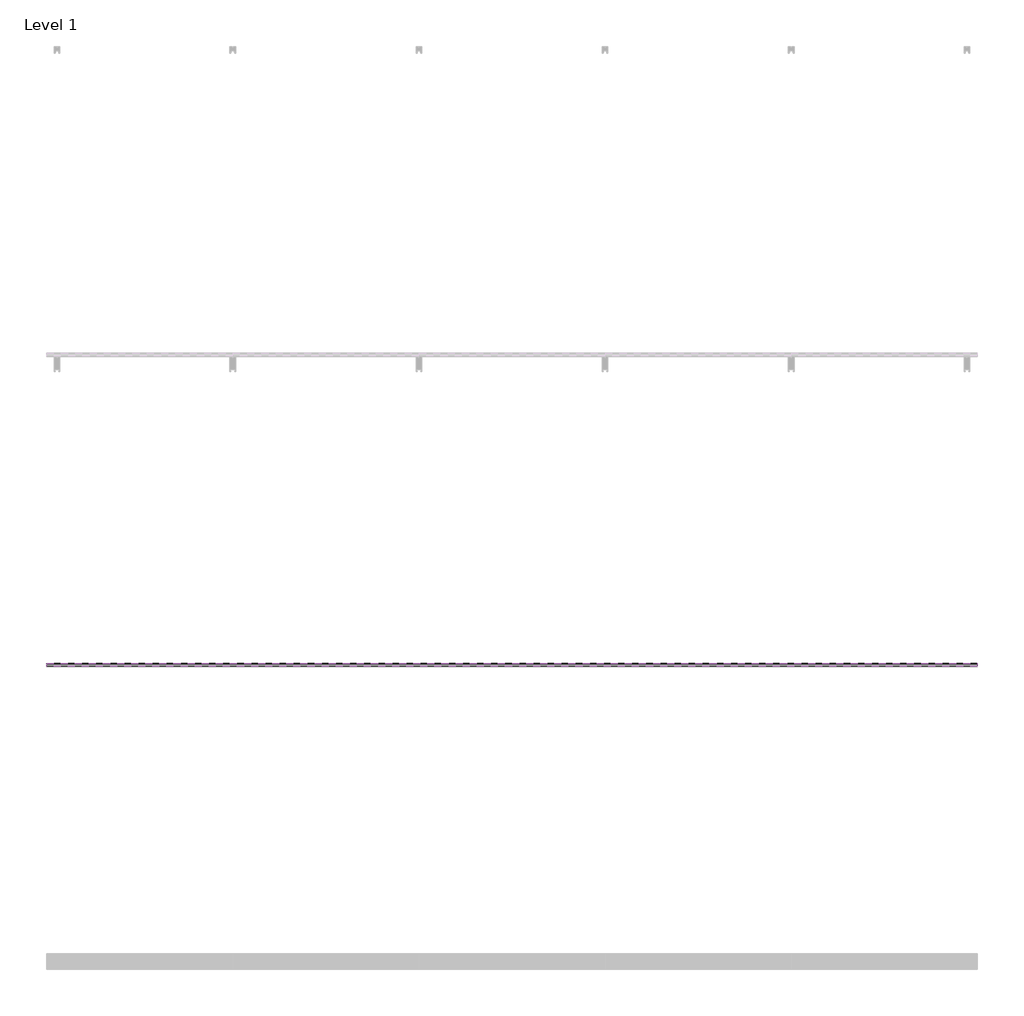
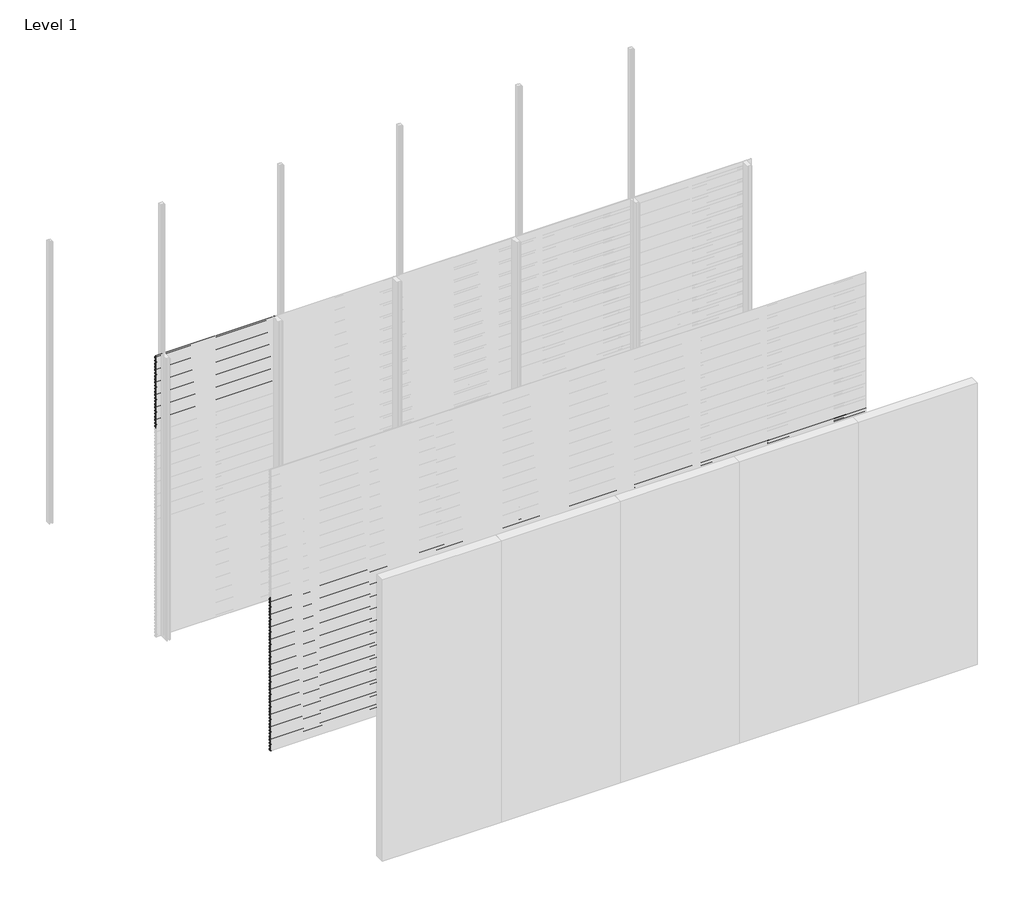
# One storey, part 49 of 77: 72 proxies.
"""IFC4 building model written with IfcOpenShell, lengths in millimetres."""

from ifc_helpers import new_model, si_unit, frame, origin, place, context, project, spatial, polyline, outline, extrude, element, save

model = new_model("IFC4")

# Units and contexts
model_context = context("Model", 3, world=origin())
ifc_project = project(units=[si_unit("LENGTHUNIT", "METRE", prefix="MILLI")], contexts=[model_context])

# Site, building, storey
site = spatial("IfcSite", under=ifc_project)
building = spatial("IfcBuilding", under=site)
storey = spatial("IfcBuildingStorey", under=building, Name="Level 1", Elevation=0.0)

# Proxies
placement = place(None, origin())
element("IfcBuildingElementProxy", 1, Name="Wall Sweeps", at=placement, inside=storey, context=model_context, shape_type="SweptSolid", body=[
    extrude(outline(polyline([(-17978.6, 2972.5359887), (-17998.0, 2983.7366691), (-17998.0, 2997.0), (-17997.0, 2997.0), (-17997.0, 2984.3191057), (-17977.6, 2973.1185105), (-17977.6, 2959.5185105), (-17978.6, 2961.0953129), (-17978.6, 2966.9032062), (-17995.9773817, 2958.8), (-17996.4, 2959.7063078), (-17978.6, 2968.0065841), (-17978.6, 2972.5359887)])), frame((0.0, 0.0, 0.0), z_axis=(1.0, 0.0, 0.0), x_axis=(0.0, 1.0, 0.0)), (0.0, 0.0, 1.0), 1200.0),
])
element("IfcBuildingElementProxy", 2, Name="Wall Sweeps", at=placement, inside=storey, context=model_context, shape_type="SweptSolid", body=[
    extrude(outline(polyline([(-17978.6, 2939.2359887), (-17998.0, 2950.4366691), (-17998.0, 2963.7), (-17997.0, 2963.7), (-17997.0, 2951.0191057), (-17977.6, 2939.8185105), (-17977.6, 2926.2185105), (-17978.6, 2927.7953129), (-17978.6, 2933.6032062), (-17995.9773817, 2925.5), (-17996.4, 2926.4063078), (-17978.6, 2934.7065841), (-17978.6, 2939.2359887)])), frame((0.0, 0.0, 0.0), z_axis=(1.0, 0.0, 0.0), x_axis=(0.0, 1.0, 0.0)), (0.0, 0.0, 1.0), 1200.0),
])
element("IfcBuildingElementProxy", 3, Name="Wall Sweeps", at=placement, inside=storey, context=model_context, shape_type="SweptSolid", body=[
    extrude(outline(polyline([(-17978.6, 2905.9359887), (-17998.0, 2917.1366691), (-17998.0, 2930.4), (-17997.0, 2930.4), (-17997.0, 2917.7191057), (-17977.6, 2906.5185105), (-17977.6, 2892.9185105), (-17978.6, 2894.4953129), (-17978.6, 2900.3032062), (-17995.9773817, 2892.2), (-17996.4, 2893.1063078), (-17978.6, 2901.4065841), (-17978.6, 2905.9359887)])), frame((0.0, 0.0, 0.0), z_axis=(1.0, 0.0, 0.0), x_axis=(0.0, 1.0, 0.0)), (0.0, 0.0, 1.0), 1200.0),
])
element("IfcBuildingElementProxy", 4, Name="Wall Sweeps", at=placement, inside=storey, context=model_context, shape_type="SweptSolid", body=[
    extrude(outline(polyline([(-17978.6, 2872.6359887), (-17998.0, 2883.8366691), (-17998.0, 2897.1), (-17997.0, 2897.1), (-17997.0, 2884.4191057), (-17977.6, 2873.2185105), (-17977.6, 2859.6185105), (-17978.6, 2861.1953129), (-17978.6, 2867.0032062), (-17995.9773817, 2858.9), (-17996.4, 2859.8063078), (-17978.6, 2868.1065841), (-17978.6, 2872.6359887)])), frame((0.0, 0.0, 0.0), z_axis=(1.0, 0.0, 0.0), x_axis=(0.0, 1.0, 0.0)), (0.0, 0.0, 1.0), 1200.0),
])
element("IfcBuildingElementProxy", 5, Name="Wall Sweeps", at=placement, inside=storey, context=model_context, shape_type="SweptSolid", body=[
    extrude(outline(polyline([(-17978.6, 2839.3359887), (-17998.0, 2850.5366691), (-17998.0, 2863.8), (-17997.0, 2863.8), (-17997.0, 2851.1191057), (-17977.6, 2839.9185105), (-17977.6, 2826.3185105), (-17978.6, 2827.8953129), (-17978.6, 2833.7032062), (-17995.9773817, 2825.6), (-17996.4, 2826.5063078), (-17978.6, 2834.8065841), (-17978.6, 2839.3359887)])), frame((0.0, 0.0, 0.0), z_axis=(1.0, 0.0, 0.0), x_axis=(0.0, 1.0, 0.0)), (0.0, 0.0, 1.0), 1200.0),
])
element("IfcBuildingElementProxy", 6, Name="Wall Sweeps", at=placement, inside=storey, context=model_context, shape_type="SweptSolid", body=[
    extrude(outline(polyline([(-17978.6, 2806.0359887), (-17998.0, 2817.2366691), (-17998.0, 2830.5), (-17997.0, 2830.5), (-17997.0, 2817.8191057), (-17977.6, 2806.6185105), (-17977.6, 2793.0185105), (-17978.6, 2794.5953129), (-17978.6, 2800.4032062), (-17995.9773817, 2792.3), (-17996.4, 2793.2063078), (-17978.6, 2801.5065841), (-17978.6, 2806.0359887)])), frame((0.0, 0.0, 0.0), z_axis=(1.0, 0.0, 0.0), x_axis=(0.0, 1.0, 0.0)), (0.0, 0.0, 1.0), 1200.0),
])
element("IfcBuildingElementProxy", 7, Name="Wall Sweeps", at=placement, inside=storey, context=model_context, shape_type="SweptSolid", body=[
    extrude(outline(polyline([(-17978.6, 2772.7359887), (-17998.0, 2783.9366691), (-17998.0, 2797.2), (-17997.0, 2797.2), (-17997.0, 2784.5191057), (-17977.6, 2773.3185105), (-17977.6, 2759.7185105), (-17978.6, 2761.2953129), (-17978.6, 2767.1032062), (-17995.9773817, 2759.0), (-17996.4, 2759.9063078), (-17978.6, 2768.2065841), (-17978.6, 2772.7359887)])), frame((0.0, 0.0, 0.0), z_axis=(1.0, 0.0, 0.0), x_axis=(0.0, 1.0, 0.0)), (0.0, 0.0, 1.0), 1200.0),
])
element("IfcBuildingElementProxy", 8, Name="Wall Sweeps", at=placement, inside=storey, context=model_context, shape_type="SweptSolid", body=[
    extrude(outline(polyline([(-17978.6, 2739.4359887), (-17998.0, 2750.6366691), (-17998.0, 2763.9), (-17997.0, 2763.9), (-17997.0, 2751.2191057), (-17977.6, 2740.0185105), (-17977.6, 2726.4185105), (-17978.6, 2727.9953129), (-17978.6, 2733.8032062), (-17995.9773817, 2725.7), (-17996.4, 2726.6063078), (-17978.6, 2734.9065841), (-17978.6, 2739.4359887)])), frame((0.0, 0.0, 0.0), z_axis=(1.0, 0.0, 0.0), x_axis=(0.0, 1.0, 0.0)), (0.0, 0.0, 1.0), 1200.0),
])
element("IfcBuildingElementProxy", 9, Name="Wall Sweeps", at=placement, inside=storey, context=model_context, shape_type="SweptSolid", body=[
    extrude(outline(polyline([(-17978.6, 2706.1359887), (-17998.0, 2717.3366691), (-17998.0, 2730.6), (-17997.0, 2730.6), (-17997.0, 2717.9191057), (-17977.6, 2706.7185105), (-17977.6, 2693.1185105), (-17978.6, 2694.6953129), (-17978.6, 2700.5032062), (-17995.9773817, 2692.4), (-17996.4, 2693.3063078), (-17978.6, 2701.6065841), (-17978.6, 2706.1359887)])), frame((0.0, 0.0, 0.0), z_axis=(1.0, 0.0, 0.0), x_axis=(0.0, 1.0, 0.0)), (0.0, 0.0, 1.0), 1200.0),
])
element("IfcBuildingElementProxy", 10, Name="Wall Sweeps", at=placement, inside=storey, context=model_context, shape_type="SweptSolid", body=[
    extrude(outline(polyline([(-17978.6, 2672.8359887), (-17998.0, 2684.0366691), (-17998.0, 2697.3), (-17997.0, 2697.3), (-17997.0, 2684.6191057), (-17977.6, 2673.4185105), (-17977.6, 2659.8185105), (-17978.6, 2661.3953129), (-17978.6, 2667.2032062), (-17995.9773817, 2659.1), (-17996.4, 2660.0063078), (-17978.6, 2668.3065841), (-17978.6, 2672.8359887)])), frame((0.0, 0.0, 0.0), z_axis=(1.0, 0.0, 0.0), x_axis=(0.0, 1.0, 0.0)), (0.0, 0.0, 1.0), 1200.0),
])
element("IfcBuildingElementProxy", 11, Name="Wall Sweeps", at=placement, inside=storey, context=model_context, shape_type="SweptSolid", body=[
    extrude(outline(polyline([(-17978.6, 2639.5359887), (-17998.0, 2650.7366691), (-17998.0, 2664.0), (-17997.0, 2664.0), (-17997.0, 2651.3191057), (-17977.6, 2640.1185105), (-17977.6, 2626.5185105), (-17978.6, 2628.0953129), (-17978.6, 2633.9032062), (-17995.9773817, 2625.8), (-17996.4, 2626.7063078), (-17978.6, 2635.0065841), (-17978.6, 2639.5359887)])), frame((0.0, 0.0, 0.0), z_axis=(1.0, 0.0, 0.0), x_axis=(0.0, 1.0, 0.0)), (0.0, 0.0, 1.0), 1200.0),
])
element("IfcBuildingElementProxy", 12, Name="Wall Sweeps", at=placement, inside=storey, context=model_context, shape_type="SweptSolid", body=[
    extrude(outline(polyline([(-17978.6, 2606.2359887), (-17998.0, 2617.4366691), (-17998.0, 2630.7), (-17997.0, 2630.7), (-17997.0, 2618.0191057), (-17977.6, 2606.8185105), (-17977.6, 2593.2185105), (-17978.6, 2594.7953129), (-17978.6, 2600.6032062), (-17995.9773817, 2592.5), (-17996.4, 2593.4063078), (-17978.6, 2601.7065841), (-17978.6, 2606.2359887)])), frame((0.0, 0.0, 0.0), z_axis=(1.0, 0.0, 0.0), x_axis=(0.0, 1.0, 0.0)), (0.0, 0.0, 1.0), 1200.0),
])
element("IfcBuildingElementProxy", 13, Name="Wall Sweeps", at=placement, inside=storey, context=model_context, shape_type="SweptSolid", body=[
    extrude(outline(polyline([(-17978.6, 2572.9359887), (-17998.0, 2584.1366691), (-17998.0, 2597.4), (-17997.0, 2597.4), (-17997.0, 2584.7191057), (-17977.6, 2573.5185105), (-17977.6, 2559.9185105), (-17978.6, 2561.4953129), (-17978.6, 2567.3032062), (-17995.9773817, 2559.2), (-17996.4, 2560.1063078), (-17978.6, 2568.4065841), (-17978.6, 2572.9359887)])), frame((0.0, 0.0, 0.0), z_axis=(1.0, 0.0, 0.0), x_axis=(0.0, 1.0, 0.0)), (0.0, 0.0, 1.0), 1200.0),
])
element("IfcBuildingElementProxy", 14, Name="Wall Sweeps", at=placement, inside=storey, context=model_context, shape_type="SweptSolid", body=[
    extrude(outline(polyline([(-17978.6, 2539.6359887), (-17998.0, 2550.8366691), (-17998.0, 2564.1), (-17997.0, 2564.1), (-17997.0, 2551.4191057), (-17977.6, 2540.2185105), (-17977.6, 2526.6185105), (-17978.6, 2528.1953129), (-17978.6, 2534.0032062), (-17995.9773817, 2525.9), (-17996.4, 2526.8063078), (-17978.6, 2535.1065841), (-17978.6, 2539.6359887)])), frame((0.0, 0.0, 0.0), z_axis=(1.0, 0.0, 0.0), x_axis=(0.0, 1.0, 0.0)), (0.0, 0.0, 1.0), 1200.0),
])
element("IfcBuildingElementProxy", 15, Name="Wall Sweeps", at=placement, inside=storey, context=model_context, shape_type="SweptSolid", body=[
    extrude(outline(polyline([(-17978.6, 2506.3359887), (-17998.0, 2517.5366691), (-17998.0, 2530.8), (-17997.0, 2530.8), (-17997.0, 2518.1191057), (-17977.6, 2506.9185105), (-17977.6, 2493.3185105), (-17978.6, 2494.8953129), (-17978.6, 2500.7032062), (-17995.9773817, 2492.6), (-17996.4, 2493.5063078), (-17978.6, 2501.8065841), (-17978.6, 2506.3359887)])), frame((0.0, 0.0, 0.0), z_axis=(1.0, 0.0, 0.0), x_axis=(0.0, 1.0, 0.0)), (0.0, 0.0, 1.0), 1200.0),
])
element("IfcBuildingElementProxy", 16, Name="Wall Sweeps", at=placement, inside=storey, context=model_context, shape_type="SweptSolid", body=[
    extrude(outline(polyline([(-17978.6, 2473.0359887), (-17998.0, 2484.2366691), (-17998.0, 2497.5), (-17997.0, 2497.5), (-17997.0, 2484.8191057), (-17977.6, 2473.6185105), (-17977.6, 2460.0185105), (-17978.6, 2461.5953129), (-17978.6, 2467.4032062), (-17995.9773817, 2459.3), (-17996.4, 2460.2063078), (-17978.6, 2468.5065841), (-17978.6, 2473.0359887)])), frame((0.0, 0.0, 0.0), z_axis=(1.0, 0.0, 0.0), x_axis=(0.0, 1.0, 0.0)), (0.0, 0.0, 1.0), 1200.0),
])
element("IfcBuildingElementProxy", 17, Name="Wall Sweeps", at=placement, inside=storey, context=model_context, shape_type="SweptSolid", body=[
    extrude(outline(polyline([(-17978.6, 2439.7359887), (-17998.0, 2450.9366691), (-17998.0, 2464.2), (-17997.0, 2464.2), (-17997.0, 2451.5191057), (-17977.6, 2440.3185105), (-17977.6, 2426.7185105), (-17978.6, 2428.2953129), (-17978.6, 2434.1032062), (-17995.9773817, 2426.0), (-17996.4, 2426.9063078), (-17978.6, 2435.2065841), (-17978.6, 2439.7359887)])), frame((0.0, 0.0, 0.0), z_axis=(1.0, 0.0, 0.0), x_axis=(0.0, 1.0, 0.0)), (0.0, 0.0, 1.0), 1200.0),
])
element("IfcBuildingElementProxy", 18, Name="Wall Sweeps", at=placement, inside=storey, context=model_context, shape_type="SweptSolid", body=[
    extrude(outline(polyline([(-17978.6, 2406.4359887), (-17998.0, 2417.6366691), (-17998.0, 2430.9), (-17997.0, 2430.9), (-17997.0, 2418.2191057), (-17977.6, 2407.0185105), (-17977.6, 2393.4185105), (-17978.6, 2394.9953129), (-17978.6, 2400.8032062), (-17995.9773817, 2392.7), (-17996.4, 2393.6063078), (-17978.6, 2401.9065841), (-17978.6, 2406.4359887)])), frame((0.0, 0.0, 0.0), z_axis=(1.0, 0.0, 0.0), x_axis=(0.0, 1.0, 0.0)), (0.0, 0.0, 1.0), 1200.0),
])
element("IfcBuildingElementProxy", 19, Name="Wall Sweeps", at=placement, inside=storey, context=model_context, shape_type="SweptSolid", body=[
    extrude(outline(polyline([(-17978.6, 2373.1359887), (-17998.0, 2384.3366691), (-17998.0, 2397.6), (-17997.0, 2397.6), (-17997.0, 2384.9191057), (-17977.6, 2373.7185105), (-17977.6, 2360.1185105), (-17978.6, 2361.6953129), (-17978.6, 2367.5032062), (-17995.9773817, 2359.4), (-17996.4, 2360.3063078), (-17978.6, 2368.6065841), (-17978.6, 2373.1359887)])), frame((0.0, 0.0, 0.0), z_axis=(1.0, 0.0, 0.0), x_axis=(0.0, 1.0, 0.0)), (0.0, 0.0, 1.0), 1200.0),
])
element("IfcBuildingElementProxy", 20, Name="Wall Sweeps", at=placement, inside=storey, context=model_context, shape_type="SweptSolid", body=[
    extrude(outline(polyline([(-17978.6, 2339.8359887), (-17998.0, 2351.0366691), (-17998.0, 2364.3), (-17997.0, 2364.3), (-17997.0, 2351.6191057), (-17977.6, 2340.4185105), (-17977.6, 2326.8185105), (-17978.6, 2328.3953129), (-17978.6, 2334.2032062), (-17995.9773817, 2326.1), (-17996.4, 2327.0063078), (-17978.6, 2335.3065841), (-17978.6, 2339.8359887)])), frame((0.0, 0.0, 0.0), z_axis=(1.0, 0.0, 0.0), x_axis=(0.0, 1.0, 0.0)), (0.0, 0.0, 1.0), 1200.0),
])
element("IfcBuildingElementProxy", 21, Name="Wall Sweeps", at=placement, inside=storey, context=model_context, shape_type="SweptSolid", body=[
    extrude(outline(polyline([(-17978.6, 2306.5359887), (-17998.0, 2317.7366691), (-17998.0, 2331.0), (-17997.0, 2331.0), (-17997.0, 2318.3191057), (-17977.6, 2307.1185105), (-17977.6, 2293.5185105), (-17978.6, 2295.0953129), (-17978.6, 2300.9032062), (-17995.9773817, 2292.8), (-17996.4, 2293.7063078), (-17978.6, 2302.0065841), (-17978.6, 2306.5359887)])), frame((0.0, 0.0, 0.0), z_axis=(1.0, 0.0, 0.0), x_axis=(0.0, 1.0, 0.0)), (0.0, 0.0, 1.0), 1200.0),
])
element("IfcBuildingElementProxy", 22, Name="Wall Sweeps", at=placement, inside=storey, context=model_context, shape_type="SweptSolid", body=[
    extrude(outline(polyline([(-17978.6, 2273.2359887), (-17998.0, 2284.4366691), (-17998.0, 2297.7), (-17997.0, 2297.7), (-17997.0, 2285.0191057), (-17977.6, 2273.8185105), (-17977.6, 2260.2185105), (-17978.6, 2261.7953129), (-17978.6, 2267.6032062), (-17995.9773817, 2259.5), (-17996.4, 2260.4063078), (-17978.6, 2268.7065841), (-17978.6, 2273.2359887)])), frame((0.0, 0.0, 0.0), z_axis=(1.0, 0.0, 0.0), x_axis=(0.0, 1.0, 0.0)), (0.0, 0.0, 1.0), 1200.0),
])
element("IfcBuildingElementProxy", 23, Name="Wall Sweeps", at=placement, inside=storey, context=model_context, shape_type="SweptSolid", body=[
    extrude(outline(polyline([(-17978.6, 2239.9359887), (-17998.0, 2251.1366691), (-17998.0, 2264.4), (-17997.0, 2264.4), (-17997.0, 2251.7191057), (-17977.6, 2240.5185105), (-17977.6, 2226.9185105), (-17978.6, 2228.4953129), (-17978.6, 2234.3032062), (-17995.9773817, 2226.2), (-17996.4, 2227.1063078), (-17978.6, 2235.4065841), (-17978.6, 2239.9359887)])), frame((0.0, 0.0, 0.0), z_axis=(1.0, 0.0, 0.0), x_axis=(0.0, 1.0, 0.0)), (0.0, 0.0, 1.0), 1200.0),
])
element("IfcBuildingElementProxy", 24, Name="Wall Sweeps", at=placement, inside=storey, context=model_context, shape_type="SweptSolid", body=[
    extrude(outline(polyline([(-19978.6, 1607.2359887), (-19998.0, 1618.4366691), (-19998.0, 1631.7), (-19997.0, 1631.7), (-19997.0, 1619.0191057), (-19977.6, 1607.8185105), (-19977.6, 1594.2185105), (-19978.6, 1595.7953129), (-19978.6, 1601.6032062), (-19995.9773817, 1593.5), (-19996.4, 1594.4063078), (-19978.6, 1602.7065841), (-19978.6, 1607.2359887)])), frame((0.0, 0.0, 0.0), z_axis=(1.0, 0.0, 0.0), x_axis=(0.0, 1.0, 0.0)), (0.0, 0.0, 1.0), 6000.0),
])
element("IfcBuildingElementProxy", 25, Name="Wall Sweeps", at=placement, inside=storey, context=model_context, shape_type="SweptSolid", body=[
    extrude(outline(polyline([(-19978.6, 1573.9359887), (-19998.0, 1585.1366691), (-19998.0, 1598.4), (-19997.0, 1598.4), (-19997.0, 1585.7191057), (-19977.6, 1574.5185105), (-19977.6, 1560.9185105), (-19978.6, 1562.4953129), (-19978.6, 1568.3032062), (-19995.9773817, 1560.2), (-19996.4, 1561.1063078), (-19978.6, 1569.4065841), (-19978.6, 1573.9359887)])), frame((0.0, 0.0, 0.0), z_axis=(1.0, 0.0, 0.0), x_axis=(0.0, 1.0, 0.0)), (0.0, 0.0, 1.0), 6000.0),
])
element("IfcBuildingElementProxy", 26, Name="Wall Sweeps", at=placement, inside=storey, context=model_context, shape_type="SweptSolid", body=[
    extrude(outline(polyline([(-19978.6, 1540.6359887), (-19998.0, 1551.8366691), (-19998.0, 1565.1), (-19997.0, 1565.1), (-19997.0, 1552.4191057), (-19977.6, 1541.2185105), (-19977.6, 1527.6185105), (-19978.6, 1529.1953129), (-19978.6, 1535.0032062), (-19995.9773817, 1526.9), (-19996.4, 1527.8063078), (-19978.6, 1536.1065841), (-19978.6, 1540.6359887)])), frame((0.0, 0.0, 0.0), z_axis=(1.0, 0.0, 0.0), x_axis=(0.0, 1.0, 0.0)), (0.0, 0.0, 1.0), 6000.0),
])
element("IfcBuildingElementProxy", 27, Name="Wall Sweeps", at=placement, inside=storey, context=model_context, shape_type="SweptSolid", body=[
    extrude(outline(polyline([(-19978.6, 1507.3359887), (-19998.0, 1518.5366691), (-19998.0, 1531.8), (-19997.0, 1531.8), (-19997.0, 1519.1191057), (-19977.6, 1507.9185105), (-19977.6, 1494.3185105), (-19978.6, 1495.8953129), (-19978.6, 1501.7032062), (-19995.9773817, 1493.6), (-19996.4, 1494.5063078), (-19978.6, 1502.8065841), (-19978.6, 1507.3359887)])), frame((0.0, 0.0, 0.0), z_axis=(1.0, 0.0, 0.0), x_axis=(0.0, 1.0, 0.0)), (0.0, 0.0, 1.0), 6000.0),
])
element("IfcBuildingElementProxy", 28, Name="Wall Sweeps", at=placement, inside=storey, context=model_context, shape_type="SweptSolid", body=[
    extrude(outline(polyline([(-19978.6, 1474.0359887), (-19998.0, 1485.2366691), (-19998.0, 1498.5), (-19997.0, 1498.5), (-19997.0, 1485.8191057), (-19977.6, 1474.6185105), (-19977.6, 1461.0185105), (-19978.6, 1462.5953129), (-19978.6, 1468.4032062), (-19995.9773817, 1460.3), (-19996.4, 1461.2063078), (-19978.6, 1469.5065841), (-19978.6, 1474.0359887)])), frame((0.0, 0.0, 0.0), z_axis=(1.0, 0.0, 0.0), x_axis=(0.0, 1.0, 0.0)), (0.0, 0.0, 1.0), 6000.0),
])
element("IfcBuildingElementProxy", 29, Name="Wall Sweeps", at=placement, inside=storey, context=model_context, shape_type="SweptSolid", body=[
    extrude(outline(polyline([(-19978.6, 1440.7359887), (-19998.0, 1451.9366691), (-19998.0, 1465.2), (-19997.0, 1465.2), (-19997.0, 1452.5191057), (-19977.6, 1441.3185105), (-19977.6, 1427.7185105), (-19978.6, 1429.2953129), (-19978.6, 1435.1032062), (-19995.9773817, 1427.0), (-19996.4, 1427.9063078), (-19978.6, 1436.2065841), (-19978.6, 1440.7359887)])), frame((0.0, 0.0, 0.0), z_axis=(1.0, 0.0, 0.0), x_axis=(0.0, 1.0, 0.0)), (0.0, 0.0, 1.0), 6000.0),
])
element("IfcBuildingElementProxy", 30, Name="Wall Sweeps", at=placement, inside=storey, context=model_context, shape_type="SweptSolid", body=[
    extrude(outline(polyline([(-19978.6, 1407.4359887), (-19998.0, 1418.6366691), (-19998.0, 1431.9), (-19997.0, 1431.9), (-19997.0, 1419.2191057), (-19977.6, 1408.0185105), (-19977.6, 1394.4185105), (-19978.6, 1395.9953129), (-19978.6, 1401.8032062), (-19995.9773817, 1393.7), (-19996.4, 1394.6063078), (-19978.6, 1402.9065841), (-19978.6, 1407.4359887)])), frame((0.0, 0.0, 0.0), z_axis=(1.0, 0.0, 0.0), x_axis=(0.0, 1.0, 0.0)), (0.0, 0.0, 1.0), 6000.0),
])
element("IfcBuildingElementProxy", 31, Name="Wall Sweeps", at=placement, inside=storey, context=model_context, shape_type="SweptSolid", body=[
    extrude(outline(polyline([(-19978.6, 1374.1359887), (-19998.0, 1385.3366691), (-19998.0, 1398.6), (-19997.0, 1398.6), (-19997.0, 1385.9191057), (-19977.6, 1374.7185105), (-19977.6, 1361.1185105), (-19978.6, 1362.6953129), (-19978.6, 1368.5032062), (-19995.9773817, 1360.4), (-19996.4, 1361.3063078), (-19978.6, 1369.6065841), (-19978.6, 1374.1359887)])), frame((0.0, 0.0, 0.0), z_axis=(1.0, 0.0, 0.0), x_axis=(0.0, 1.0, 0.0)), (0.0, 0.0, 1.0), 6000.0),
])
element("IfcBuildingElementProxy", 32, Name="Wall Sweeps", at=placement, inside=storey, context=model_context, shape_type="SweptSolid", body=[
    extrude(outline(polyline([(-19978.6, 1340.8359887), (-19998.0, 1352.0366691), (-19998.0, 1365.3), (-19997.0, 1365.3), (-19997.0, 1352.6191057), (-19977.6, 1341.4185105), (-19977.6, 1327.8185105), (-19978.6, 1329.3953129), (-19978.6, 1335.2032062), (-19995.9773817, 1327.1), (-19996.4, 1328.0063078), (-19978.6, 1336.3065841), (-19978.6, 1340.8359887)])), frame((0.0, 0.0, 0.0), z_axis=(1.0, 0.0, 0.0), x_axis=(0.0, 1.0, 0.0)), (0.0, 0.0, 1.0), 6000.0),
])
element("IfcBuildingElementProxy", 33, Name="Wall Sweeps", at=placement, inside=storey, context=model_context, shape_type="SweptSolid", body=[
    extrude(outline(polyline([(-19978.6, 1307.5359887), (-19998.0, 1318.7366691), (-19998.0, 1332.0), (-19997.0, 1332.0), (-19997.0, 1319.3191057), (-19977.6, 1308.1185105), (-19977.6, 1294.5185105), (-19978.6, 1296.0953129), (-19978.6, 1301.9032062), (-19995.9773817, 1293.8), (-19996.4, 1294.7063078), (-19978.6, 1303.0065841), (-19978.6, 1307.5359887)])), frame((0.0, 0.0, 0.0), z_axis=(1.0, 0.0, 0.0), x_axis=(0.0, 1.0, 0.0)), (0.0, 0.0, 1.0), 6000.0),
])
element("IfcBuildingElementProxy", 34, Name="Wall Sweeps", at=placement, inside=storey, context=model_context, shape_type="SweptSolid", body=[
    extrude(outline(polyline([(-19978.6, 1274.2359887), (-19998.0, 1285.4366691), (-19998.0, 1298.7), (-19997.0, 1298.7), (-19997.0, 1286.0191057), (-19977.6, 1274.8185105), (-19977.6, 1261.2185105), (-19978.6, 1262.7953129), (-19978.6, 1268.6032062), (-19995.9773817, 1260.5), (-19996.4, 1261.4063078), (-19978.6, 1269.7065841), (-19978.6, 1274.2359887)])), frame((0.0, 0.0, 0.0), z_axis=(1.0, 0.0, 0.0), x_axis=(0.0, 1.0, 0.0)), (0.0, 0.0, 1.0), 6000.0),
])
element("IfcBuildingElementProxy", 35, Name="Wall Sweeps", at=placement, inside=storey, context=model_context, shape_type="SweptSolid", body=[
    extrude(outline(polyline([(-19978.6, 1240.9359887), (-19998.0, 1252.1366691), (-19998.0, 1265.4), (-19997.0, 1265.4), (-19997.0, 1252.7191057), (-19977.6, 1241.5185105), (-19977.6, 1227.9185105), (-19978.6, 1229.4953129), (-19978.6, 1235.3032062), (-19995.9773817, 1227.2), (-19996.4, 1228.1063078), (-19978.6, 1236.4065841), (-19978.6, 1240.9359887)])), frame((0.0, 0.0, 0.0), z_axis=(1.0, 0.0, 0.0), x_axis=(0.0, 1.0, 0.0)), (0.0, 0.0, 1.0), 6000.0),
])
element("IfcBuildingElementProxy", 36, Name="Wall Sweeps", at=placement, inside=storey, context=model_context, shape_type="SweptSolid", body=[
    extrude(outline(polyline([(-19978.6, 1207.6359887), (-19998.0, 1218.8366691), (-19998.0, 1232.1), (-19997.0, 1232.1), (-19997.0, 1219.4191057), (-19977.6, 1208.2185105), (-19977.6, 1194.6185105), (-19978.6, 1196.1953129), (-19978.6, 1202.0032062), (-19995.9773817, 1193.9), (-19996.4, 1194.8063078), (-19978.6, 1203.1065841), (-19978.6, 1207.6359887)])), frame((0.0, 0.0, 0.0), z_axis=(1.0, 0.0, 0.0), x_axis=(0.0, 1.0, 0.0)), (0.0, 0.0, 1.0), 6000.0),
])
element("IfcBuildingElementProxy", 37, Name="Wall Sweeps", at=placement, inside=storey, context=model_context, shape_type="SweptSolid", body=[
    extrude(outline(polyline([(-19978.6, 1174.3359887), (-19998.0, 1185.5366691), (-19998.0, 1198.8), (-19997.0, 1198.8), (-19997.0, 1186.1191057), (-19977.6, 1174.9185105), (-19977.6, 1161.3185105), (-19978.6, 1162.8953129), (-19978.6, 1168.7032062), (-19995.9773817, 1160.6), (-19996.4, 1161.5063078), (-19978.6, 1169.8065841), (-19978.6, 1174.3359887)])), frame((0.0, 0.0, 0.0), z_axis=(1.0, 0.0, 0.0), x_axis=(0.0, 1.0, 0.0)), (0.0, 0.0, 1.0), 6000.0),
])
element("IfcBuildingElementProxy", 38, Name="Wall Sweeps", at=placement, inside=storey, context=model_context, shape_type="SweptSolid", body=[
    extrude(outline(polyline([(-19978.6, 1141.0359887), (-19998.0, 1152.2366691), (-19998.0, 1165.5), (-19997.0, 1165.5), (-19997.0, 1152.8191057), (-19977.6, 1141.6185105), (-19977.6, 1128.0185105), (-19978.6, 1129.5953129), (-19978.6, 1135.4032062), (-19995.9773817, 1127.3), (-19996.4, 1128.2063078), (-19978.6, 1136.5065841), (-19978.6, 1141.0359887)])), frame((0.0, 0.0, 0.0), z_axis=(1.0, 0.0, 0.0), x_axis=(0.0, 1.0, 0.0)), (0.0, 0.0, 1.0), 6000.0),
])
element("IfcBuildingElementProxy", 39, Name="Wall Sweeps", at=placement, inside=storey, context=model_context, shape_type="SweptSolid", body=[
    extrude(outline(polyline([(-19978.6, 1107.7359887), (-19998.0, 1118.9366691), (-19998.0, 1132.2), (-19997.0, 1132.2), (-19997.0, 1119.5191057), (-19977.6, 1108.3185105), (-19977.6, 1094.7185105), (-19978.6, 1096.2953129), (-19978.6, 1102.1032062), (-19995.9773817, 1094.0), (-19996.4, 1094.9063078), (-19978.6, 1103.2065841), (-19978.6, 1107.7359887)])), frame((0.0, 0.0, 0.0), z_axis=(1.0, 0.0, 0.0), x_axis=(0.0, 1.0, 0.0)), (0.0, 0.0, 1.0), 6000.0),
])
element("IfcBuildingElementProxy", 40, Name="Wall Sweeps", at=placement, inside=storey, context=model_context, shape_type="SweptSolid", body=[
    extrude(outline(polyline([(-19978.6, 1074.4359887), (-19998.0, 1085.6366691), (-19998.0, 1098.9), (-19997.0, 1098.9), (-19997.0, 1086.2191057), (-19977.6, 1075.0185105), (-19977.6, 1061.4185105), (-19978.6, 1062.9953129), (-19978.6, 1068.8032062), (-19995.9773817, 1060.7), (-19996.4, 1061.6063078), (-19978.6, 1069.9065841), (-19978.6, 1074.4359887)])), frame((0.0, 0.0, 0.0), z_axis=(1.0, 0.0, 0.0), x_axis=(0.0, 1.0, 0.0)), (0.0, 0.0, 1.0), 6000.0),
])
element("IfcBuildingElementProxy", 41, Name="Wall Sweeps", at=placement, inside=storey, context=model_context, shape_type="SweptSolid", body=[
    extrude(outline(polyline([(-19978.6, 1041.1359887), (-19998.0, 1052.3366691), (-19998.0, 1065.6), (-19997.0, 1065.6), (-19997.0, 1052.9191057), (-19977.6, 1041.7185105), (-19977.6, 1028.1185105), (-19978.6, 1029.6953129), (-19978.6, 1035.5032062), (-19995.9773817, 1027.4), (-19996.4, 1028.3063078), (-19978.6, 1036.6065841), (-19978.6, 1041.1359887)])), frame((0.0, 0.0, 0.0), z_axis=(1.0, 0.0, 0.0), x_axis=(0.0, 1.0, 0.0)), (0.0, 0.0, 1.0), 6000.0),
])
element("IfcBuildingElementProxy", 42, Name="Wall Sweeps", at=placement, inside=storey, context=model_context, shape_type="SweptSolid", body=[
    extrude(outline(polyline([(-19978.6, 1007.8359887), (-19998.0, 1019.0366691), (-19998.0, 1032.3), (-19997.0, 1032.3), (-19997.0, 1019.6191057), (-19977.6, 1008.4185105), (-19977.6, 994.8185105), (-19978.6, 996.3953129), (-19978.6, 1002.2032062), (-19995.9773817, 994.1), (-19996.4, 995.0063078), (-19978.6, 1003.3065841), (-19978.6, 1007.8359887)])), frame((0.0, 0.0, 0.0), z_axis=(1.0, 0.0, 0.0), x_axis=(0.0, 1.0, 0.0)), (0.0, 0.0, 1.0), 6000.0),
])
element("IfcBuildingElementProxy", 43, Name="Wall Sweeps", at=placement, inside=storey, context=model_context, shape_type="SweptSolid", body=[
    extrude(outline(polyline([(-19978.6, 974.5359887), (-19998.0, 985.7366691), (-19998.0, 999.0), (-19997.0, 999.0), (-19997.0, 986.3191057), (-19977.6, 975.1185105), (-19977.6, 961.5185105), (-19978.6, 963.0953129), (-19978.6, 968.9032062), (-19995.9773817, 960.8), (-19996.4, 961.7063078), (-19978.6, 970.0065841), (-19978.6, 974.5359887)])), frame((0.0, 0.0, 0.0), z_axis=(1.0, 0.0, 0.0), x_axis=(0.0, 1.0, 0.0)), (0.0, 0.0, 1.0), 6000.0),
])
element("IfcBuildingElementProxy", 44, Name="Wall Sweeps", at=placement, inside=storey, context=model_context, shape_type="SweptSolid", body=[
    extrude(outline(polyline([(-19978.6, 941.2359887), (-19998.0, 952.4366691), (-19998.0, 965.7), (-19997.0, 965.7), (-19997.0, 953.0191057), (-19977.6, 941.8185105), (-19977.6, 928.2185105), (-19978.6, 929.7953129), (-19978.6, 935.6032062), (-19995.9773817, 927.5), (-19996.4, 928.4063078), (-19978.6, 936.7065841), (-19978.6, 941.2359887)])), frame((0.0, 0.0, 0.0), z_axis=(1.0, 0.0, 0.0), x_axis=(0.0, 1.0, 0.0)), (0.0, 0.0, 1.0), 6000.0),
])
element("IfcBuildingElementProxy", 45, Name="Wall Sweeps", at=placement, inside=storey, context=model_context, shape_type="SweptSolid", body=[
    extrude(outline(polyline([(-19978.6, 907.9359887), (-19998.0, 919.1366691), (-19998.0, 932.4), (-19997.0, 932.4), (-19997.0, 919.7191057), (-19977.6, 908.5185105), (-19977.6, 894.9185105), (-19978.6, 896.4953129), (-19978.6, 902.3032062), (-19995.9773817, 894.2), (-19996.4, 895.1063078), (-19978.6, 903.4065841), (-19978.6, 907.9359887)])), frame((0.0, 0.0, 0.0), z_axis=(1.0, 0.0, 0.0), x_axis=(0.0, 1.0, 0.0)), (0.0, 0.0, 1.0), 6000.0),
])
element("IfcBuildingElementProxy", 46, Name="Wall Sweeps", at=placement, inside=storey, context=model_context, shape_type="SweptSolid", body=[
    extrude(outline(polyline([(-19978.6, 874.6359887), (-19998.0, 885.8366691), (-19998.0, 899.1), (-19997.0, 899.1), (-19997.0, 886.4191057), (-19977.6, 875.2185105), (-19977.6, 861.6185105), (-19978.6, 863.1953129), (-19978.6, 869.0032062), (-19995.9773817, 860.9), (-19996.4, 861.8063078), (-19978.6, 870.1065841), (-19978.6, 874.6359887)])), frame((0.0, 0.0, 0.0), z_axis=(1.0, 0.0, 0.0), x_axis=(0.0, 1.0, 0.0)), (0.0, 0.0, 1.0), 6000.0),
])
element("IfcBuildingElementProxy", 47, Name="Wall Sweeps", at=placement, inside=storey, context=model_context, shape_type="SweptSolid", body=[
    extrude(outline(polyline([(-19978.6, 841.3359887), (-19998.0, 852.5366691), (-19998.0, 865.8), (-19997.0, 865.8), (-19997.0, 853.1191057), (-19977.6, 841.9185105), (-19977.6, 828.3185105), (-19978.6, 829.8953129), (-19978.6, 835.7032062), (-19995.9773817, 827.6), (-19996.4, 828.5063078), (-19978.6, 836.8065841), (-19978.6, 841.3359887)])), frame((0.0, 0.0, 0.0), z_axis=(1.0, 0.0, 0.0), x_axis=(0.0, 1.0, 0.0)), (0.0, 0.0, 1.0), 6000.0),
])
element("IfcBuildingElementProxy", 48, Name="Wall Sweeps", at=placement, inside=storey, context=model_context, shape_type="SweptSolid", body=[
    extrude(outline(polyline([(-19978.6, 808.0359887), (-19998.0, 819.2366691), (-19998.0, 832.5), (-19997.0, 832.5), (-19997.0, 819.8191057), (-19977.6, 808.6185105), (-19977.6, 795.0185105), (-19978.6, 796.5953129), (-19978.6, 802.4032062), (-19995.9773817, 794.3), (-19996.4, 795.2063078), (-19978.6, 803.5065841), (-19978.6, 808.0359887)])), frame((0.0, 0.0, 0.0), z_axis=(1.0, 0.0, 0.0), x_axis=(0.0, 1.0, 0.0)), (0.0, 0.0, 1.0), 6000.0),
])
element("IfcBuildingElementProxy", 49, Name="Wall Sweeps", at=placement, inside=storey, context=model_context, shape_type="SweptSolid", body=[
    extrude(outline(polyline([(-19978.6, 774.7359887), (-19998.0, 785.9366691), (-19998.0, 799.2), (-19997.0, 799.2), (-19997.0, 786.5191057), (-19977.6, 775.3185105), (-19977.6, 761.7185105), (-19978.6, 763.2953129), (-19978.6, 769.1032062), (-19995.9773817, 761.0), (-19996.4, 761.9063078), (-19978.6, 770.2065841), (-19978.6, 774.7359887)])), frame((0.0, 0.0, 0.0), z_axis=(1.0, 0.0, 0.0), x_axis=(0.0, 1.0, 0.0)), (0.0, 0.0, 1.0), 6000.0),
])
element("IfcBuildingElementProxy", 50, Name="Wall Sweeps", at=placement, inside=storey, context=model_context, shape_type="SweptSolid", body=[
    extrude(outline(polyline([(-19978.6, 741.4359887), (-19998.0, 752.6366691), (-19998.0, 765.9), (-19997.0, 765.9), (-19997.0, 753.2191057), (-19977.6, 742.0185105), (-19977.6, 728.4185105), (-19978.6, 729.9953129), (-19978.6, 735.8032062), (-19995.9773817, 727.7), (-19996.4, 728.6063078), (-19978.6, 736.9065841), (-19978.6, 741.4359887)])), frame((0.0, 0.0, 0.0), z_axis=(1.0, 0.0, 0.0), x_axis=(0.0, 1.0, 0.0)), (0.0, 0.0, 1.0), 6000.0),
])
element("IfcBuildingElementProxy", 51, Name="Wall Sweeps", at=placement, inside=storey, context=model_context, shape_type="SweptSolid", body=[
    extrude(outline(polyline([(-19978.6, 708.1359887), (-19998.0, 719.3366691), (-19998.0, 732.6), (-19997.0, 732.6), (-19997.0, 719.9191057), (-19977.6, 708.7185105), (-19977.6, 695.1185105), (-19978.6, 696.6953129), (-19978.6, 702.5032062), (-19995.9773817, 694.4), (-19996.4, 695.3063078), (-19978.6, 703.6065841), (-19978.6, 708.1359887)])), frame((0.0, 0.0, 0.0), z_axis=(1.0, 0.0, 0.0), x_axis=(0.0, 1.0, 0.0)), (0.0, 0.0, 1.0), 6000.0),
])
element("IfcBuildingElementProxy", 52, Name="Wall Sweeps", at=placement, inside=storey, context=model_context, shape_type="SweptSolid", body=[
    extrude(outline(polyline([(-19978.6, 674.8359887), (-19998.0, 686.0366691), (-19998.0, 699.3), (-19997.0, 699.3), (-19997.0, 686.6191057), (-19977.6, 675.4185105), (-19977.6, 661.8185105), (-19978.6, 663.3953129), (-19978.6, 669.2032062), (-19995.9773817, 661.1), (-19996.4, 662.0063078), (-19978.6, 670.3065841), (-19978.6, 674.8359887)])), frame((0.0, 0.0, 0.0), z_axis=(1.0, 0.0, 0.0), x_axis=(0.0, 1.0, 0.0)), (0.0, 0.0, 1.0), 6000.0),
])
element("IfcBuildingElementProxy", 53, Name="Wall Sweeps", at=placement, inside=storey, context=model_context, shape_type="SweptSolid", body=[
    extrude(outline(polyline([(-19978.6, 641.5359887), (-19998.0, 652.7366691), (-19998.0, 666.0), (-19997.0, 666.0), (-19997.0, 653.3191057), (-19977.6, 642.1185105), (-19977.6, 628.5185105), (-19978.6, 630.0953129), (-19978.6, 635.9032062), (-19995.9773817, 627.8), (-19996.4, 628.7063078), (-19978.6, 637.0065841), (-19978.6, 641.5359887)])), frame((0.0, 0.0, 0.0), z_axis=(1.0, 0.0, 0.0), x_axis=(0.0, 1.0, 0.0)), (0.0, 0.0, 1.0), 6000.0),
])
element("IfcBuildingElementProxy", 54, Name="Wall Sweeps", at=placement, inside=storey, context=model_context, shape_type="SweptSolid", body=[
    extrude(outline(polyline([(-19978.6, 608.2359887), (-19998.0, 619.4366691), (-19998.0, 632.7), (-19997.0, 632.7), (-19997.0, 620.0191057), (-19977.6, 608.8185105), (-19977.6, 595.2185105), (-19978.6, 596.7953129), (-19978.6, 602.6032062), (-19995.9773817, 594.5), (-19996.4, 595.4063078), (-19978.6, 603.7065841), (-19978.6, 608.2359887)])), frame((0.0, 0.0, 0.0), z_axis=(1.0, 0.0, 0.0), x_axis=(0.0, 1.0, 0.0)), (0.0, 0.0, 1.0), 6000.0),
])
element("IfcBuildingElementProxy", 55, Name="Wall Sweeps", at=placement, inside=storey, context=model_context, shape_type="SweptSolid", body=[
    extrude(outline(polyline([(-19978.6, 574.9359887), (-19998.0, 586.1366691), (-19998.0, 599.4), (-19997.0, 599.4), (-19997.0, 586.7191057), (-19977.6, 575.5185105), (-19977.6, 561.9185105), (-19978.6, 563.4953129), (-19978.6, 569.3032062), (-19995.9773817, 561.2), (-19996.4, 562.1063078), (-19978.6, 570.4065841), (-19978.6, 574.9359887)])), frame((0.0, 0.0, 0.0), z_axis=(1.0, 0.0, 0.0), x_axis=(0.0, 1.0, 0.0)), (0.0, 0.0, 1.0), 6000.0),
])
element("IfcBuildingElementProxy", 56, Name="Wall Sweeps", at=placement, inside=storey, context=model_context, shape_type="SweptSolid", body=[
    extrude(outline(polyline([(-19978.6, 541.6359887), (-19998.0, 552.8366691), (-19998.0, 566.1), (-19997.0, 566.1), (-19997.0, 553.4191057), (-19977.6, 542.2185105), (-19977.6, 528.6185105), (-19978.6, 530.1953129), (-19978.6, 536.0032062), (-19995.9773817, 527.9), (-19996.4, 528.8063078), (-19978.6, 537.1065841), (-19978.6, 541.6359887)])), frame((0.0, 0.0, 0.0), z_axis=(1.0, 0.0, 0.0), x_axis=(0.0, 1.0, 0.0)), (0.0, 0.0, 1.0), 6000.0),
])
element("IfcBuildingElementProxy", 57, Name="Wall Sweeps", at=placement, inside=storey, context=model_context, shape_type="SweptSolid", body=[
    extrude(outline(polyline([(-19978.6, 508.3359887), (-19998.0, 519.5366691), (-19998.0, 532.8), (-19997.0, 532.8), (-19997.0, 520.1191057), (-19977.6, 508.9185105), (-19977.6, 495.3185105), (-19978.6, 496.8953129), (-19978.6, 502.7032062), (-19995.9773817, 494.6), (-19996.4, 495.5063078), (-19978.6, 503.8065841), (-19978.6, 508.3359887)])), frame((0.0, 0.0, 0.0), z_axis=(1.0, 0.0, 0.0), x_axis=(0.0, 1.0, 0.0)), (0.0, 0.0, 1.0), 6000.0),
])
element("IfcBuildingElementProxy", 58, Name="Wall Sweeps", at=placement, inside=storey, context=model_context, shape_type="SweptSolid", body=[
    extrude(outline(polyline([(-19978.6, 475.0359887), (-19998.0, 486.2366691), (-19998.0, 499.5), (-19997.0, 499.5), (-19997.0, 486.8191057), (-19977.6, 475.6185105), (-19977.6, 462.0185105), (-19978.6, 463.5953129), (-19978.6, 469.4032062), (-19995.9773817, 461.3), (-19996.4, 462.2063078), (-19978.6, 470.5065841), (-19978.6, 475.0359887)])), frame((0.0, 0.0, 0.0), z_axis=(1.0, 0.0, 0.0), x_axis=(0.0, 1.0, 0.0)), (0.0, 0.0, 1.0), 6000.0),
])
element("IfcBuildingElementProxy", 59, Name="Wall Sweeps", at=placement, inside=storey, context=model_context, shape_type="SweptSolid", body=[
    extrude(outline(polyline([(-19978.6, 441.7359887), (-19998.0, 452.9366691), (-19998.0, 466.2), (-19997.0, 466.2), (-19997.0, 453.5191057), (-19977.6, 442.3185105), (-19977.6, 428.7185105), (-19978.6, 430.2953129), (-19978.6, 436.1032062), (-19995.9773817, 428.0), (-19996.4, 428.9063078), (-19978.6, 437.2065841), (-19978.6, 441.7359887)])), frame((0.0, 0.0, 0.0), z_axis=(1.0, 0.0, 0.0), x_axis=(0.0, 1.0, 0.0)), (0.0, 0.0, 1.0), 6000.0),
])
element("IfcBuildingElementProxy", 60, Name="Wall Sweeps", at=placement, inside=storey, context=model_context, shape_type="SweptSolid", body=[
    extrude(outline(polyline([(-19978.6, 408.4359887), (-19998.0, 419.6366691), (-19998.0, 432.9), (-19997.0, 432.9), (-19997.0, 420.2191057), (-19977.6, 409.0185105), (-19977.6, 395.4185105), (-19978.6, 396.9953129), (-19978.6, 402.8032062), (-19995.9773817, 394.7), (-19996.4, 395.6063078), (-19978.6, 403.9065841), (-19978.6, 408.4359887)])), frame((0.0, 0.0, 0.0), z_axis=(1.0, 0.0, 0.0), x_axis=(0.0, 1.0, 0.0)), (0.0, 0.0, 1.0), 6000.0),
])
element("IfcBuildingElementProxy", 61, Name="Wall Sweeps", at=placement, inside=storey, context=model_context, shape_type="SweptSolid", body=[
    extrude(outline(polyline([(-19978.6, 375.1359887), (-19998.0, 386.3366691), (-19998.0, 399.6), (-19997.0, 399.6), (-19997.0, 386.9191057), (-19977.6, 375.7185105), (-19977.6, 362.1185105), (-19978.6, 363.6953129), (-19978.6, 369.5032062), (-19995.9773817, 361.4), (-19996.4, 362.3063078), (-19978.6, 370.6065841), (-19978.6, 375.1359887)])), frame((0.0, 0.0, 0.0), z_axis=(1.0, 0.0, 0.0), x_axis=(0.0, 1.0, 0.0)), (0.0, 0.0, 1.0), 6000.0),
])
element("IfcBuildingElementProxy", 62, Name="Wall Sweeps", at=placement, inside=storey, context=model_context, shape_type="SweptSolid", body=[
    extrude(outline(polyline([(-19978.6, 341.8359887), (-19998.0, 353.0366691), (-19998.0, 366.3), (-19997.0, 366.3), (-19997.0, 353.6191057), (-19977.6, 342.4185105), (-19977.6, 328.8185105), (-19978.6, 330.3953129), (-19978.6, 336.2032062), (-19995.9773817, 328.1), (-19996.4, 329.0063078), (-19978.6, 337.3065841), (-19978.6, 341.8359887)])), frame((0.0, 0.0, 0.0), z_axis=(1.0, 0.0, 0.0), x_axis=(0.0, 1.0, 0.0)), (0.0, 0.0, 1.0), 6000.0),
])
element("IfcBuildingElementProxy", 63, Name="Wall Sweeps", at=placement, inside=storey, context=model_context, shape_type="SweptSolid", body=[
    extrude(outline(polyline([(-19978.6, 308.5359887), (-19998.0, 319.7366691), (-19998.0, 333.0), (-19997.0, 333.0), (-19997.0, 320.3191057), (-19977.6, 309.1185105), (-19977.6, 295.5185105), (-19978.6, 297.0953129), (-19978.6, 302.9032062), (-19995.9773817, 294.8), (-19996.4, 295.7063078), (-19978.6, 304.0065841), (-19978.6, 308.5359887)])), frame((0.0, 0.0, 0.0), z_axis=(1.0, 0.0, 0.0), x_axis=(0.0, 1.0, 0.0)), (0.0, 0.0, 1.0), 6000.0),
])
element("IfcBuildingElementProxy", 64, Name="Wall Sweeps", at=placement, inside=storey, context=model_context, shape_type="SweptSolid", body=[
    extrude(outline(polyline([(-19978.6, 275.2359887), (-19998.0, 286.4366691), (-19998.0, 299.7), (-19997.0, 299.7), (-19997.0, 287.0191057), (-19977.6, 275.8185105), (-19977.6, 262.2185105), (-19978.6, 263.7953129), (-19978.6, 269.6032062), (-19995.9773817, 261.5), (-19996.4, 262.4063078), (-19978.6, 270.7065841), (-19978.6, 275.2359887)])), frame((0.0, 0.0, 0.0), z_axis=(1.0, 0.0, 0.0), x_axis=(0.0, 1.0, 0.0)), (0.0, 0.0, 1.0), 6000.0),
])
element("IfcBuildingElementProxy", 65, Name="Wall Sweeps", at=placement, inside=storey, context=model_context, shape_type="SweptSolid", body=[
    extrude(outline(polyline([(-19978.6, 241.9359887), (-19998.0, 253.1366691), (-19998.0, 266.4), (-19997.0, 266.4), (-19997.0, 253.7191057), (-19977.6, 242.5185105), (-19977.6, 228.9185105), (-19978.6, 230.4953129), (-19978.6, 236.3032062), (-19995.9773817, 228.2), (-19996.4, 229.1063078), (-19978.6, 237.4065841), (-19978.6, 241.9359887)])), frame((0.0, 0.0, 0.0), z_axis=(1.0, 0.0, 0.0), x_axis=(0.0, 1.0, 0.0)), (0.0, 0.0, 1.0), 6000.0),
])
element("IfcBuildingElementProxy", 66, Name="Wall Sweeps", at=placement, inside=storey, context=model_context, shape_type="SweptSolid", body=[
    extrude(outline(polyline([(-19978.6, 208.6359887), (-19998.0, 219.8366691), (-19998.0, 233.1), (-19997.0, 233.1), (-19997.0, 220.4191057), (-19977.6, 209.2185105), (-19977.6, 195.6185105), (-19978.6, 197.1953129), (-19978.6, 203.0032062), (-19995.9773817, 194.9), (-19996.4, 195.8063078), (-19978.6, 204.1065841), (-19978.6, 208.6359887)])), frame((0.0, 0.0, 0.0), z_axis=(1.0, 0.0, 0.0), x_axis=(0.0, 1.0, 0.0)), (0.0, 0.0, 1.0), 6000.0),
])
element("IfcBuildingElementProxy", 67, Name="Wall Sweeps", at=placement, inside=storey, context=model_context, shape_type="SweptSolid", body=[
    extrude(outline(polyline([(-19978.6, 175.3359887), (-19998.0, 186.5366691), (-19998.0, 199.8), (-19997.0, 199.8), (-19997.0, 187.1191057), (-19977.6, 175.9185105), (-19977.6, 162.3185105), (-19978.6, 163.8953129), (-19978.6, 169.7032062), (-19995.9773817, 161.6), (-19996.4, 162.5063078), (-19978.6, 170.8065841), (-19978.6, 175.3359887)])), frame((0.0, 0.0, 0.0), z_axis=(1.0, 0.0, 0.0), x_axis=(0.0, 1.0, 0.0)), (0.0, 0.0, 1.0), 6000.0),
])
element("IfcBuildingElementProxy", 68, Name="Wall Sweeps", at=placement, inside=storey, context=model_context, shape_type="SweptSolid", body=[
    extrude(outline(polyline([(-19978.6, 142.0359887), (-19998.0, 153.2366691), (-19998.0, 166.5), (-19997.0, 166.5), (-19997.0, 153.8191057), (-19977.6, 142.6185105), (-19977.6, 129.0185105), (-19978.6, 130.5953129), (-19978.6, 136.4032062), (-19995.9773817, 128.3), (-19996.4, 129.2063078), (-19978.6, 137.5065841), (-19978.6, 142.0359887)])), frame((0.0, 0.0, 0.0), z_axis=(1.0, 0.0, 0.0), x_axis=(0.0, 1.0, 0.0)), (0.0, 0.0, 1.0), 6000.0),
])
element("IfcBuildingElementProxy", 69, Name="Wall Sweeps", at=placement, inside=storey, context=model_context, shape_type="SweptSolid", body=[
    extrude(outline(polyline([(-19978.6, 108.7359887), (-19998.0, 119.9366691), (-19998.0, 133.2), (-19997.0, 133.2), (-19997.0, 120.5191057), (-19977.6, 109.3185105), (-19977.6, 95.7185105), (-19978.6, 97.2953129), (-19978.6, 103.1032062), (-19995.9773817, 95.0), (-19996.4, 95.9063078), (-19978.6, 104.2065841), (-19978.6, 108.7359887)])), frame((0.0, 0.0, 0.0), z_axis=(1.0, 0.0, 0.0), x_axis=(0.0, 1.0, 0.0)), (0.0, 0.0, 1.0), 6000.0),
])
element("IfcBuildingElementProxy", 70, Name="Wall Sweeps", at=placement, inside=storey, context=model_context, shape_type="SweptSolid", body=[
    extrude(outline(polyline([(-19978.6, 75.4359887), (-19998.0, 86.6366691), (-19998.0, 99.9), (-19997.0, 99.9), (-19997.0, 87.2191057), (-19977.6, 76.0185105), (-19977.6, 62.4185105), (-19978.6, 63.9953129), (-19978.6, 69.8032062), (-19995.9773817, 61.7), (-19996.4, 62.6063078), (-19978.6, 70.9065841), (-19978.6, 75.4359887)])), frame((0.0, 0.0, 0.0), z_axis=(1.0, 0.0, 0.0), x_axis=(0.0, 1.0, 0.0)), (0.0, 0.0, 1.0), 6000.0),
])
element("IfcBuildingElementProxy", 71, Name="Wall Sweeps", at=placement, inside=storey, context=model_context, shape_type="SweptSolid", body=[
    extrude(outline(polyline([(-19978.6, 42.1359887), (-19998.0, 53.3366691), (-19998.0, 66.6), (-19997.0, 66.6), (-19997.0, 53.9191057), (-19977.6, 42.7185105), (-19977.6, 29.1185105), (-19978.6, 30.6953129), (-19978.6, 36.5032062), (-19995.9773817, 28.4), (-19996.4, 29.3063078), (-19978.6, 37.6065841), (-19978.6, 42.1359887)])), frame((0.0, 0.0, 0.0), z_axis=(1.0, 0.0, 0.0), x_axis=(0.0, 1.0, 0.0)), (0.0, 0.0, 1.0), 6000.0),
])
element("IfcBuildingElementProxy", 72, Name="Wall Sweeps", at=placement, inside=storey, context=model_context, shape_type="SweptSolid", body=[
    extrude(outline(polyline([(-19978.6, 8.8359887), (-19998.0, 20.0366691), (-19998.0, 33.3), (-19997.0, 33.3), (-19997.0, 20.6191057), (-19977.6, 9.4185105), (-19977.6, -4.1814895), (-19978.6, -2.6046871), (-19978.6, 3.2032062), (-19995.9773817, -4.9), (-19996.4, -3.9936922), (-19978.6, 4.3065841), (-19978.6, 8.8359887)])), frame((0.0, 0.0, 0.0), z_axis=(1.0, 0.0, 0.0), x_axis=(0.0, 1.0, 0.0)), (0.0, 0.0, 1.0), 6000.0),
])

save(model, "model.ifc")
